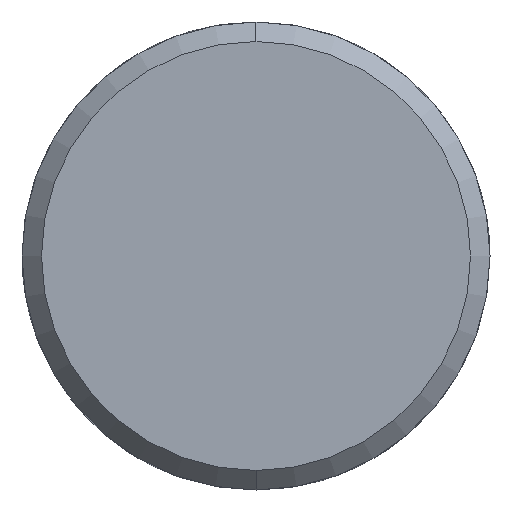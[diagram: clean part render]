
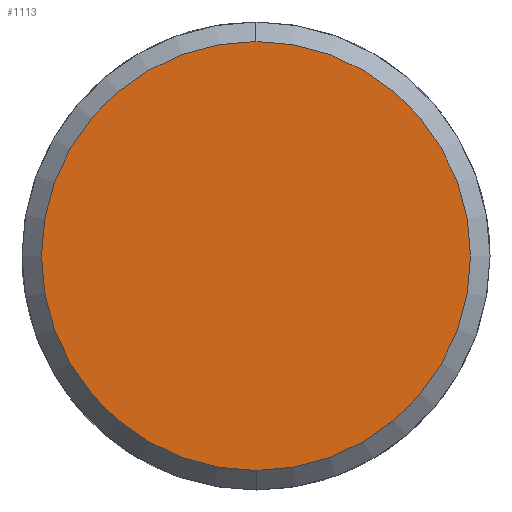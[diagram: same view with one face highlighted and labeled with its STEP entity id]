
A CAD part, left-side view. The second image highlights one B-rep face of the part: STEP entity #1113.
In plain terms, the highlighted planar face has unit normal (-1, 0, 0).
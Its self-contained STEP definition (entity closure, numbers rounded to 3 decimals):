
#1045=CARTESIAN_POINT('Vertex',(-5.,0.,-11.)) ;
#1048=CARTESIAN_POINT('Axis2P3D Location',(-5.,0.,0.)) ;
#1052=CARTESIAN_POINT('Vertex',(-5.,11.,0.)) ;
#1055=CARTESIAN_POINT('Axis2P3D Location',(-5.,0.,0.)) ;
#1059=CARTESIAN_POINT('Vertex',(-5.,0.,11.)) ;
#1081=CARTESIAN_POINT('Axis2P3D Location',(-5.,0.,0.)) ;
#1085=CARTESIAN_POINT('Vertex',(-5.,-11.,0.)) ;
#1088=CARTESIAN_POINT('Axis2P3D Location',(-5.,0.,0.)) ;
#1102=CARTESIAN_POINT('Axis2P3D Location',(-5.,0.,0.)) ;
#1049=DIRECTION('Axis2P3D Direction',(1.,0.,-0.)) ;
#1056=DIRECTION('Axis2P3D Direction',(1.,0.,-0.)) ;
#1082=DIRECTION('Axis2P3D Direction',(1.,0.,-0.)) ;
#1089=DIRECTION('Axis2P3D Direction',(1.,0.,-0.)) ;
#1103=DIRECTION('Axis2P3D Direction',(1.,0.,-0.)) ;
#1104=DIRECTION('Axis2P3D XDirection',(-0.,0.,-1.)) ;
#1050=AXIS2_PLACEMENT_3D('Circle Axis2P3D',#1048,#1049,$) ;
#1057=AXIS2_PLACEMENT_3D('Circle Axis2P3D',#1055,#1056,$) ;
#1083=AXIS2_PLACEMENT_3D('Circle Axis2P3D',#1081,#1082,$) ;
#1090=AXIS2_PLACEMENT_3D('Circle Axis2P3D',#1088,#1089,$) ;
#1105=AXIS2_PLACEMENT_3D('Plane Axis2P3D',#1102,#1103,#1104) ;
#1108=ORIENTED_EDGE('',*,*,#1054,.F.) ;
#1109=ORIENTED_EDGE('',*,*,#1092,.F.) ;
#1110=ORIENTED_EDGE('',*,*,#1087,.F.) ;
#1111=ORIENTED_EDGE('',*,*,#1061,.F.) ;
#1113=ADVANCED_FACE('351-14X26X70',(#1112),#1106,.F.) ;
#1051=CIRCLE('generated circle',#1050,11.) ;
#1058=CIRCLE('generated circle',#1057,11.) ;
#1084=CIRCLE('generated circle',#1083,11.) ;
#1091=CIRCLE('generated circle',#1090,11.) ;
#1054=EDGE_CURVE('',#1046,#1053,#1051,.T.) ;
#1061=EDGE_CURVE('',#1053,#1060,#1058,.T.) ;
#1087=EDGE_CURVE('',#1060,#1086,#1084,.T.) ;
#1092=EDGE_CURVE('',#1086,#1046,#1091,.T.) ;
#1107=EDGE_LOOP('',(#1108,#1109,#1110,#1111)) ;
#1112=FACE_OUTER_BOUND('',#1107,.T.) ;
#1106=PLANE('Plane',#1105) ;
#1046=VERTEX_POINT('',#1045) ;
#1053=VERTEX_POINT('',#1052) ;
#1060=VERTEX_POINT('',#1059) ;
#1086=VERTEX_POINT('',#1085) ;
